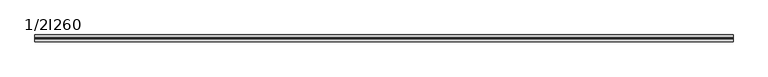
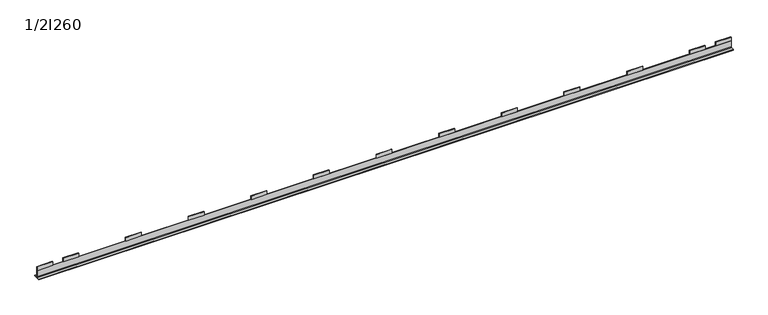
"""IFC4 building model written with IfcOpenShell, lengths in millimetres: beam geometry, Wzmocnienie do belek - dokładny podział : 1/2I260."""

from ifc_helpers import new_model, si_unit, point, frame, frame_2d, origin, place, context, project, spatial, polyline, circle_curve, trimmed, segment, composite_curve, outline, extrude, source, transform, mapped, element, save


def beam_1_2i260_78d89379(model_context):
    return source(origin(), model_context, "Body", "SweptSolid", [
        extrude(outline(polyline([(9503.8786728, -5.5), (9503.8786728, 5.5), (9753.8786728, 5.5), (9753.8786728, -5.5), (9503.8786728, -5.5)])), frame((0.0, 0.0, -60.0), z_axis=(0.0, 0.0, 1.0), x_axis=(1.0, 0.0, 0.0)), (0.0, 0.0, 1.0), 60.0),
        extrude(outline(polyline([(8494.5588202, -5.5), (8494.5588202, 5.5), (8744.5588202, 5.5), (8744.5588202, -5.5), (8494.5588202, -5.5)])), frame((0.0, 0.0, -60.0), z_axis=(0.0, 0.0, 1.0), x_axis=(1.0, 0.0, 0.0)), (0.0, 0.0, 1.0), 60.0),
        extrude(outline(polyline([(7485.2389677, -5.5), (7485.2389677, 5.5), (7735.2389677, 5.5), (7735.2389677, -5.5), (7485.2389677, -5.5)])), frame((0.0, 0.0, -60.0), z_axis=(0.0, 0.0, 1.0), x_axis=(1.0, 0.0, 0.0)), (0.0, 0.0, 1.0), 60.0),
        extrude(outline(polyline([(6475.9191152, -5.5), (6475.9191152, 5.5), (6725.9191152, 5.5), (6725.9191152, -5.5), (6475.9191152, -5.5)])), frame((0.0, 0.0, -60.0), z_axis=(0.0, 0.0, 1.0), x_axis=(1.0, 0.0, 0.0)), (0.0, 0.0, 1.0), 60.0),
        extrude(outline(polyline([(5466.5992626, -5.5), (5466.5992626, 5.5), (5716.5992626, 5.5), (5716.5992626, -5.5), (5466.5992626, -5.5)])), frame((0.0, 0.0, -60.0), z_axis=(0.0, 0.0, 1.0), x_axis=(1.0, 0.0, 0.0)), (0.0, 0.0, 1.0), 60.0),
        extrude(outline(polyline([(4457.2794101, -5.5), (4457.2794101, 5.5), (4707.2794101, 5.5), (4707.2794101, -5.5), (4457.2794101, -5.5)])), frame((0.0, 0.0, -60.0), z_axis=(0.0, 0.0, 1.0), x_axis=(1.0, 0.0, 0.0)), (0.0, 0.0, 1.0), 60.0),
        extrude(outline(polyline([(3447.9595576, -5.5), (3447.9595576, 5.5), (3697.9595576, 5.5), (3697.9595576, -5.5), (3447.9595576, -5.5)])), frame((0.0, 0.0, -60.0), z_axis=(0.0, 0.0, 1.0), x_axis=(1.0, 0.0, 0.0)), (0.0, 0.0, 1.0), 60.0),
        extrude(outline(polyline([(2438.6397051, -5.5), (2438.6397051, 5.5), (2688.6397051, 5.5), (2688.6397051, -5.5), (2438.6397051, -5.5)])), frame((0.0, 0.0, -60.0), z_axis=(0.0, 0.0, 1.0), x_axis=(1.0, 0.0, 0.0)), (0.0, 0.0, 1.0), 60.0),
        extrude(outline(polyline([(1429.3198525, -5.5), (1429.3198525, 5.5), (1679.3198525, 5.5), (1679.3198525, -5.5), (1429.3198525, -5.5)])), frame((0.0, 0.0, -60.0), z_axis=(0.0, 0.0, 1.0), x_axis=(1.0, 0.0, 0.0)), (0.0, 0.0, 1.0), 60.0),
        extrude(outline(polyline([(10513.1985253, -5.5), (10513.1985253, 5.5), (10763.1985253, 5.5), (10763.1985253, -5.5), (10513.1985253, -5.5)])), frame((0.0, 0.0, -60.0), z_axis=(0.0, 0.0, 1.0), x_axis=(1.0, 0.0, 0.0)), (0.0, 0.0, 1.0), 60.0),
        extrude(outline(polyline([(420.0, -5.5), (420.0, 5.5), (670.0, 5.5), (670.0, -5.5), (420.0, -5.5)])), frame((0.0, 0.0, -60.0), z_axis=(0.0, 0.0, 1.0), x_axis=(1.0, 0.0, 0.0)), (0.0, 0.0, 1.0), 60.0),
        extrude(outline(polyline([(10933.1985253, -5.5), (10933.1985253, 5.5), (11183.1985253, 5.5), (11183.1985253, -5.5), (10933.1985253, -5.5)])), frame((0.0, 0.0, -60.0), z_axis=(0.0, 0.0, 1.0), x_axis=(1.0, 0.0, 0.0)), (0.0, 0.0, 1.0), 60.0),
        extrude(outline(polyline([(0.0, -5.5), (0.0, 5.5), (250.0, 5.5), (250.0, -5.5), (0.0, -5.5)])), frame((0.0, 0.0, -60.0), z_axis=(0.0, 0.0, 1.0), x_axis=(1.0, 0.0, 0.0)), (0.0, 0.0, 1.0), 60.0),
        extrude(outline(composite_curve([segment(polyline([(56.5, -190.0), (-56.5, -190.0), (-56.5, -175.9), (-14.1, -175.9)]), True, "CONTINUOUS"), segment(trimmed(circle_curve(frame_2d((-14.1, -166.5)), 9.4), [point((-14.1, -175.9))], [point((-4.7, -166.5))], True, "CARTESIAN"), True, "CONTINUOUS"), segment(polyline([(-4.7, -166.5), (-4.7, -60.0), (4.7, -60.0), (4.7, -166.5)]), True, "CONTINUOUS"), segment(trimmed(circle_curve(frame_2d((14.1, -166.5)), 9.4), [point((4.7, -166.5))], [point((14.1, -175.9))], True, "CARTESIAN"), True, "CONTINUOUS"), segment(polyline([(14.1, -175.9), (56.5, -175.9), (56.5, -190.0)]), True, "CONTINUOUS")], self_intersect=False)), frame((0.0, 0.0, 0.0), z_axis=(1.0, 0.0, 0.0), x_axis=(0.0, 1.0, 0.0)), (0.0, 0.0, 1.0), 11183.1985253),
    ])


if __name__ == "__main__":
    model = new_model("IFC4")
    model_context = context("Model", 3, world=origin())
    ifc_project = project(units=[si_unit("LENGTHUNIT", "METRE", prefix="MILLI")], contexts=[model_context])
    site = spatial("IfcSite", under=ifc_project)
    building = spatial("IfcBuilding", under=site)
    placement = place(None, origin())
    beam_1_2i260_shape = beam_1_2i260_78d89379(model_context)
    element("IfcBeam", 1, ObjectType="Wzmocnienie do belek - dokładny podział : 1/2I260", at=placement, inside=building, context=model_context, shape_type="MappedRepresentation", body=[
        mapped(beam_1_2i260_shape, transform((0.0, 0.0, 0.0), x_axis=(1.0, 0.0, 0.0), y_axis=(0.0, 1.0, 0.0), z_axis=(0.0, 0.0, 1.0))),
    ])
    save(model, "model.ifc")
